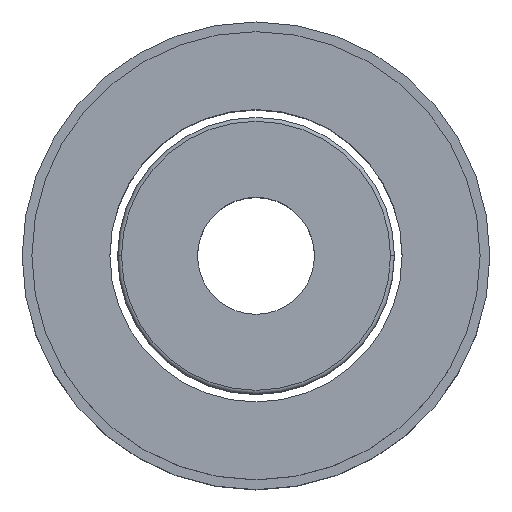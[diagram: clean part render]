
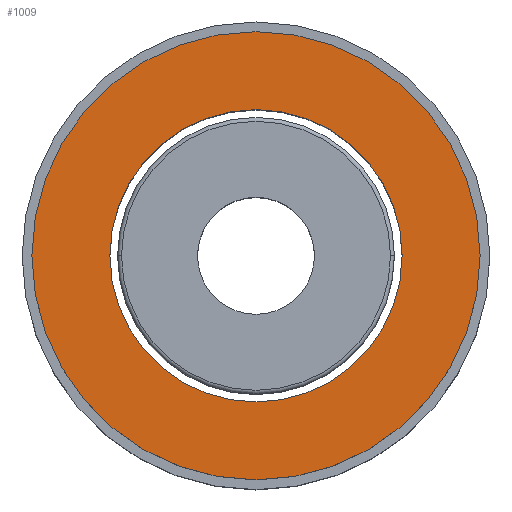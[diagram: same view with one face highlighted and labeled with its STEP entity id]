
A CAD part, top view. The second image highlights one B-rep face of the part: STEP entity #1009.
In plain terms, the highlighted planar face has unit normal (0, 0, 1).
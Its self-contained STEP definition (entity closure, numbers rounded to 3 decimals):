
#4 = DIRECTION ( 'NONE',  ( 0., 0., 1. ) ) ;
#32 = VERTEX_POINT ( 'NONE', #1151 ) ;
#35 = CARTESIAN_POINT ( 'NONE',  ( 0., 0., 0. ) ) ;
#40 = EDGE_CURVE ( 'NONE', #843, #53, #183, .T. ) ;
#53 = VERTEX_POINT ( 'NONE', #1140 ) ;
#55 = AXIS2_PLACEMENT_3D ( 'NONE', #395, #575, #124 ) ;
#124 = DIRECTION ( 'NONE',  ( 1., 0., 0. ) ) ;
#148 = ORIENTED_EDGE ( 'NONE', *, *, #946, .F. ) ;
#183 = CIRCLE ( 'NONE', #755, 5.75 ) ;
#191 = ORIENTED_EDGE ( 'NONE', *, *, #456, .F. ) ;
#225 = DIRECTION ( 'NONE',  ( 0., 0., 1. ) ) ;
#324 = EDGE_LOOP ( 'NONE', ( #509, #757 ) ) ;
#326 = DIRECTION ( 'NONE',  ( 0., 0., -1. ) ) ;
#337 = DIRECTION ( 'NONE',  ( 0., 0., 1. ) ) ;
#395 = CARTESIAN_POINT ( 'NONE',  ( 0., 0., 0. ) ) ;
#456 = EDGE_CURVE ( 'NONE', #32, #1001, #651, .T. ) ;
#475 = FACE_OUTER_BOUND ( 'NONE', #324, .T. ) ;
#477 = EDGE_LOOP ( 'NONE', ( #148, #191 ) ) ;
#509 = ORIENTED_EDGE ( 'NONE', *, *, #40, .T. ) ;
#575 = DIRECTION ( 'NONE',  ( 0., 0., 1. ) ) ;
#651 = CIRCLE ( 'NONE', #775, 3.75 ) ;
#676 = CIRCLE ( 'NONE', #55, 5.75 ) ;
#712 = DIRECTION ( 'NONE',  ( 1., 0., 0. ) ) ;
#726 = CIRCLE ( 'NONE', #1135, 3.75 ) ;
#755 = AXIS2_PLACEMENT_3D ( 'NONE', #1144, #4, #1061 ) ;
#757 = ORIENTED_EDGE ( 'NONE', *, *, #1069, .T. ) ;
#760 = CARTESIAN_POINT ( 'NONE',  ( 0., 5.75, 0. ) ) ;
#775 = AXIS2_PLACEMENT_3D ( 'NONE', #1133, #337, #712 ) ;
#842 = PLANE ( 'NONE',  #1003 ) ;
#843 = VERTEX_POINT ( 'NONE', #1008 ) ;
#911 = DIRECTION ( 'NONE',  ( -1., 0., 0. ) ) ;
#931 = DIRECTION ( 'NONE',  ( 1., 0., 0. ) ) ;
#939 = FACE_BOUND ( 'NONE', #477, .T. ) ;
#946 = EDGE_CURVE ( 'NONE', #1001, #32, #726, .T. ) ;
#1001 = VERTEX_POINT ( 'NONE', #1116 ) ;
#1003 = AXIS2_PLACEMENT_3D ( 'NONE', #760, #326, #911 ) ;
#1008 = CARTESIAN_POINT ( 'NONE',  ( 5.75, 0., 0. ) ) ;
#1009 = ADVANCED_FACE ( 'NONE', ( #939, #475 ), #842, .F. ) ;
#1061 = DIRECTION ( 'NONE',  ( 1., 0., 0. ) ) ;
#1069 = EDGE_CURVE ( 'NONE', #53, #843, #676, .T. ) ;
#1116 = CARTESIAN_POINT ( 'NONE',  ( 3.75, 0., 0. ) ) ;
#1133 = CARTESIAN_POINT ( 'NONE',  ( 0., 0., 0. ) ) ;
#1135 = AXIS2_PLACEMENT_3D ( 'NONE', #35, #225, #931 ) ;
#1140 = CARTESIAN_POINT ( 'NONE',  ( -5.75, 0., 0. ) ) ;
#1144 = CARTESIAN_POINT ( 'NONE',  ( 0., 0., 0. ) ) ;
#1151 = CARTESIAN_POINT ( 'NONE',  ( -3.75, 0., 0. ) ) ;
